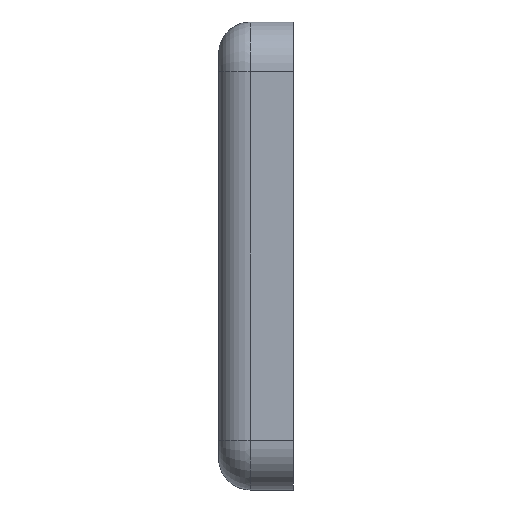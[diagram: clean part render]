
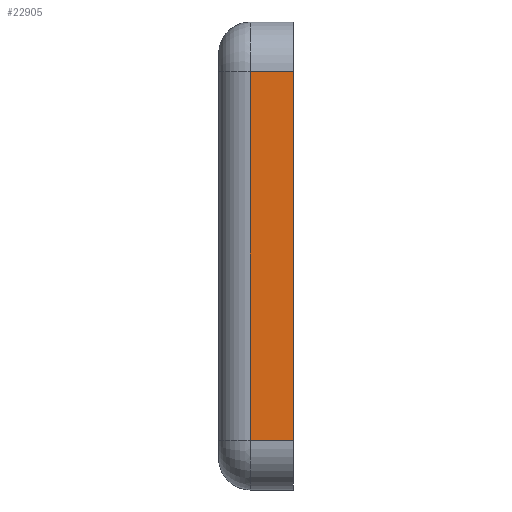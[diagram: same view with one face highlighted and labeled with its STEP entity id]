
A CAD part, left-side view. The second image highlights one B-rep face of the part: STEP entity #22905.
In plain terms, the highlighted planar face has unit normal (-1, 0, 0).
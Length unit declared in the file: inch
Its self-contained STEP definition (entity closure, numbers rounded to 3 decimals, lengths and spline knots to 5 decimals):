
#2823 = LINE ( 'NONE', #25381, #21707 ) ;
#3531 = CARTESIAN_POINT ( 'NONE',  ( -12.43635, 0.55932, 0. ) ) ;
#3769 = VERTEX_POINT ( 'NONE', #18233 ) ;
#7505 = ORIENTED_EDGE ( 'NONE', *, *, #26367, .T. ) ;
#8882 = DIRECTION ( 'NONE',  ( 0., 0., -1. ) ) ;
#9364 = LINE ( 'NONE', #15222, #22390 ) ;
#10467 = CARTESIAN_POINT ( 'NONE',  ( -12.43635, 1.92167, -4.85646 ) ) ;
#11916 = EDGE_CURVE ( 'NONE', #19325, #13372, #2823, .T. ) ;
#13372 = VERTEX_POINT ( 'NONE', #19417 ) ;
#14622 = FACE_OUTER_BOUND ( 'NONE', #14861, .T. ) ;
#14861 = EDGE_LOOP ( 'NONE', ( #34313, #38470, #7505, #38274 ) ) ;
#15222 = CARTESIAN_POINT ( 'NONE',  ( -12.43635, 27.51083, -4.85646 ) ) ;
#16067 = DIRECTION ( 'NONE',  ( 0., 0., 1. ) ) ;
#18233 = CARTESIAN_POINT ( 'NONE',  ( -12.43635, 0.55932, -4.85646 ) ) ;
#19049 = AXIS2_PLACEMENT_3D ( 'NONE', #22510, #22874, #47584 ) ;
#19325 = VERTEX_POINT ( 'NONE', #29949 ) ;
#19417 = CARTESIAN_POINT ( 'NONE',  ( -12.43635, 0.55932, 6.79578 ) ) ;
#21707 = VECTOR ( 'NONE', #50444, 39.37008 ) ;
#22390 = VECTOR ( 'NONE', #53545, 39.37008 ) ;
#22510 = CARTESIAN_POINT ( 'NONE',  ( -12.43635, 27.51083, 0. ) ) ;
#22874 = DIRECTION ( 'NONE',  ( 1., 0., 0. ) ) ;
#22905 = ADVANCED_FACE ( 'NONE', ( #14622 ), #43571, .F. ) ;
#25304 = CARTESIAN_POINT ( 'NONE',  ( -12.43635, 1.92167, -4.85646 ) ) ;
#25381 = CARTESIAN_POINT ( 'NONE',  ( -12.43635, 27.51083, 6.79578 ) ) ;
#26367 = EDGE_CURVE ( 'NONE', #28538, #3769, #9364, .T. ) ;
#28538 = VERTEX_POINT ( 'NONE', #10467 ) ;
#29949 = CARTESIAN_POINT ( 'NONE',  ( -12.43635, 1.92167, 6.79578 ) ) ;
#32870 = VECTOR ( 'NONE', #16067, 39.37008 ) ;
#34313 = ORIENTED_EDGE ( 'NONE', *, *, #11916, .F. ) ;
#37379 = VECTOR ( 'NONE', #8882, 39.37008 ) ;
#38274 = ORIENTED_EDGE ( 'NONE', *, *, #42109, .T. ) ;
#38470 = ORIENTED_EDGE ( 'NONE', *, *, #53976, .T. ) ;
#42109 = EDGE_CURVE ( 'NONE', #3769, #13372, #44561, .T. ) ;
#43571 = PLANE ( 'NONE',  #19049 ) ;
#44541 = LINE ( 'NONE', #25304, #37379 ) ;
#44561 = LINE ( 'NONE', #3531, #32870 ) ;
#47584 = DIRECTION ( 'NONE',  ( 0., 0., -1. ) ) ;
#50444 = DIRECTION ( 'NONE',  ( 0., -1., 0. ) ) ;
#53545 = DIRECTION ( 'NONE',  ( 0., -1., 0. ) ) ;
#53976 = EDGE_CURVE ( 'NONE', #19325, #28538, #44541, .T. ) ;
